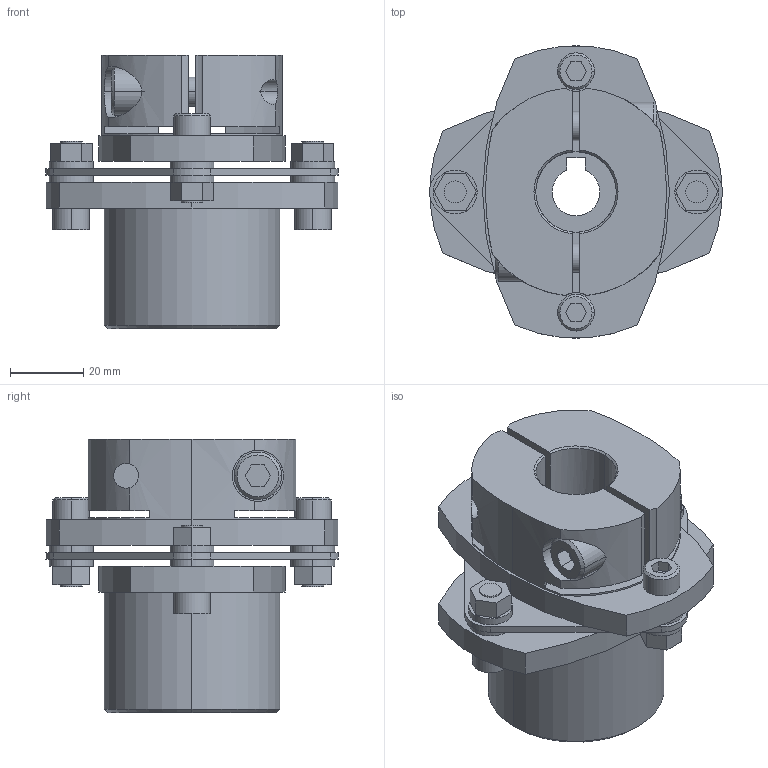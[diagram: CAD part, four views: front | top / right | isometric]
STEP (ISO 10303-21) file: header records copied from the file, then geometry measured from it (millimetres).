
FILE_DESCRIPTION((''),'2;1');
FILE_NAME('LCS-80M-16L亊22B.stp','2015-10-27T19:15:13',(''),(''),'AutoCAD STEP 2000i','AutoCAD 2000i',', , ');
FILE_SCHEMA(('CONFIG_CONTROL_DESIGN'));
Length unit declared in the file: millimetre
Products named in the file (7): LCS-80M-16L×20B; 忣兜1; LC80-B020; LC80M-L016; LC80-B015-1; LC80-B015; LCS80-ITA
Assembly tree (6 placements, depth 2):
  LCS-80M-16L×20B
    忣兜1
    LC80-B020
    LC80M-L016
    LC80-B015-1
    LC80-B015
    LCS80-ITA
Bounding box: 80 x 79.95 x 74.75 mm (x, y, z)
Volume: 142434.4 mm3; surface area: 41617.8 mm2
Topology: 1 solids, 1 shells, 230 faces, 580 edges, 382 vertices
Faces by surface type: plane 115, cylinder 96, cone 19
Entity records: 7435 total; most frequent: CARTESIAN_POINT 1523, DIRECTION 1254, ORIENTED_EDGE 1160, EDGE_CURVE 580, AXIS2_PLACEMENT_3D 459, VERTEX_POINT 382, VECTOR 336, LINE 336
